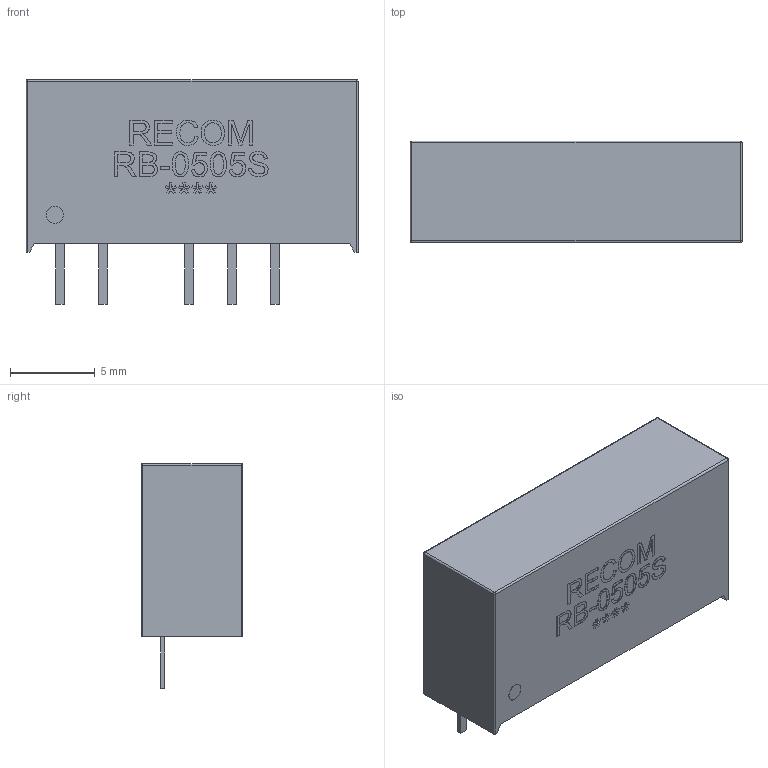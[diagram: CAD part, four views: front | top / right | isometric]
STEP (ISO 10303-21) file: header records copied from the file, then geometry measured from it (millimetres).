
FILE_DESCRIPTION(('STEP AP242'),'1');
FILE_NAME('rb-0505d.stp','2022-11-19T07:56:00',('TraceParts'),('TraceParts S.A.'),'Spatial InterOp 3D',' ',' ');
FILE_SCHEMA(('AP242_MANAGED_MODEL_BASED_3D_ENGINEERING_MIM_LF {1 0 10303 442 1 1 4}'));
Length unit declared in the file: millimetre
Products named in the file (1): rb-0505d
Bounding box: 19.6 x 6 x 13.28 mm (x, y, z)
Volume: 1143.6 mm3; surface area: 767.3 mm2
Topology: 1 solids, 1 shells, 338 faces, 922 edges, 612 vertices
Faces by surface type: extrusion 186, plane 138, cylinder 10, sphere 4
Entity records: 23652 total; most frequent: CARTESIAN_POINT 13687, ORIENTED_EDGE 1836, EDGE_CURVE 918, B_SPLINE_CURVE_WITH_KNOTS 850, DIRECTION 766, VERTEX_POINT 612, VECTOR 420, EDGE_LOOP 368
